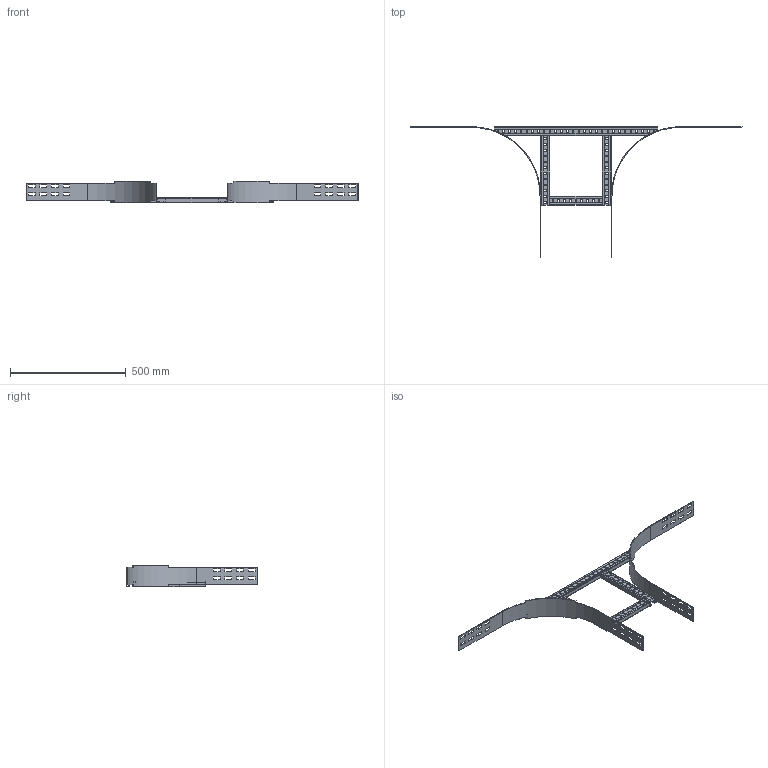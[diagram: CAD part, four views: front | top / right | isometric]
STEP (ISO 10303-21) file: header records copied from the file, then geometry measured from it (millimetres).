
FILE_DESCRIPTION(('Creo Elements/Direct Modeling STEP Export'),'2;1');
FILE_NAME('//pserver/office/EK/ME10-3D/3D-output/WPBP10-30-30.stp','2020-03-13T 7:21:05',(''),(''),'PTC Creo Elements/Direct Modeling STEP processor for AP214 (Solid Model)','PTC Creo Elements/Direct Modeling 19.0C 15-Aug-2015 (C) Parametric Technology GmbH','');
FILE_SCHEMA(('AUTOMOTIVE_DESIGN { 1 0 10303 214 1 1 1 1 }'));
Length unit declared in the file: millimetre
Products named in the file (5): WPAASP1_300-300; WPAASP2-300; WPAAIG_100-300; WPKS30; WPBP10-30-30-HDG
Assembly tree (6 placements, depth 2):
  WPBP10-30-30-HDG
    WPKS30
    WPAASP2-300  x2
    WPAAIG_100-300  x2
    WPAASP1_300-300
Bounding box: 1435 x 565 x 95 mm (x, y, z)
Volume: 664883.6 mm3; surface area: 621822.8 mm2
Topology: 6 solids, 6 shells, 580 faces, 1698 edges, 1132 vertices
Faces by surface type: plane 384, cylinder 196
Entity records: 13805 total; most frequent: CARTESIAN_POINT 2376, ORIENTED_EDGE 2376, DIRECTION 2300, EDGE_CURVE 1188, VECTOR 868, LINE 868, VERTEX_POINT 792, AXIS2_PLACEMENT_3D 716
